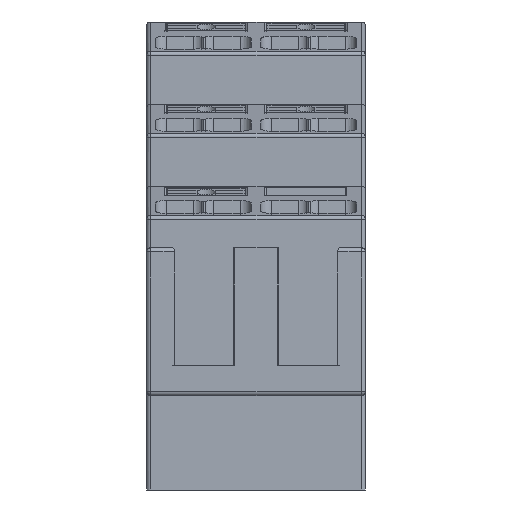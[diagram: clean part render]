
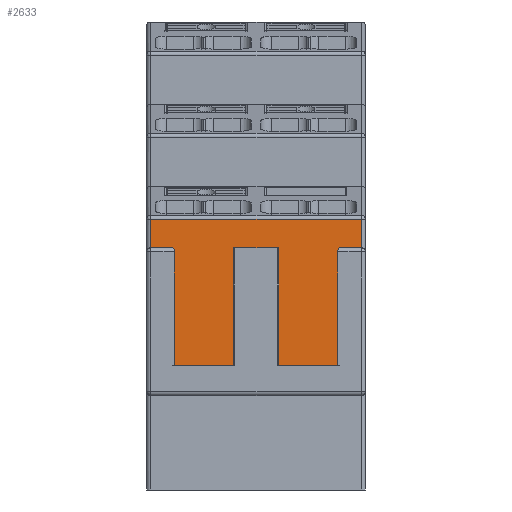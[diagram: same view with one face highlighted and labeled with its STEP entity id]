
A CAD part, left-side view. The second image highlights one B-rep face of the part: STEP entity #2633.
In plain terms, the highlighted planar face has unit normal (-1, 0, 0).
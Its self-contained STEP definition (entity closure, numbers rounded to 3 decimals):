
#2633=ADVANCED_FACE('',(#6224),#4635,.F.);
#4635=PLANE('',#41403);
#6224=FACE_OUTER_BOUND('',#8258,.T.);
#8258=EDGE_LOOP('',(#15008,#15009,#15010,#15011,#15012,#15013,#15014,#15015,
#15016,#15017,#15018,#15019));
#15008=ORIENTED_EDGE('',*,*,#27871,.T.);
#15009=ORIENTED_EDGE('',*,*,#27872,.T.);
#15010=ORIENTED_EDGE('',*,*,#27873,.T.);
#15011=ORIENTED_EDGE('',*,*,#27874,.T.);
#15012=ORIENTED_EDGE('',*,*,#27875,.F.);
#15013=ORIENTED_EDGE('',*,*,#27876,.F.);
#15014=ORIENTED_EDGE('',*,*,#27877,.T.);
#15015=ORIENTED_EDGE('',*,*,#27878,.T.);
#15016=ORIENTED_EDGE('',*,*,#27879,.F.);
#15017=ORIENTED_EDGE('',*,*,#27880,.F.);
#15018=ORIENTED_EDGE('',*,*,#27881,.T.);
#15019=ORIENTED_EDGE('',*,*,#27882,.T.);
#23222=VERTEX_POINT('',#60167);
#23223=VERTEX_POINT('',#60168);
#23224=VERTEX_POINT('',#60170);
#23225=VERTEX_POINT('',#60172);
#23226=VERTEX_POINT('',#60174);
#23227=VERTEX_POINT('',#60176);
#23228=VERTEX_POINT('',#60178);
#23229=VERTEX_POINT('',#60180);
#23230=VERTEX_POINT('',#60182);
#23231=VERTEX_POINT('',#60184);
#23232=VERTEX_POINT('',#60186);
#23233=VERTEX_POINT('',#60188);
#27871=EDGE_CURVE('',#23222,#23223,#33446,.T.);
#27872=EDGE_CURVE('',#23223,#23224,#33447,.T.);
#27873=EDGE_CURVE('',#23224,#23225,#33448,.T.);
#27874=EDGE_CURVE('',#23225,#23226,#33449,.T.);
#27875=EDGE_CURVE('',#23227,#23226,#33450,.T.);
#27876=EDGE_CURVE('',#23228,#23227,#33451,.T.);
#27877=EDGE_CURVE('',#23228,#23229,#33452,.T.);
#27878=EDGE_CURVE('',#23229,#23230,#33453,.T.);
#27879=EDGE_CURVE('',#23231,#23230,#33454,.T.);
#27880=EDGE_CURVE('',#23232,#23231,#33455,.T.);
#27881=EDGE_CURVE('',#23232,#23233,#33456,.T.);
#27882=EDGE_CURVE('',#23233,#23222,#33457,.T.);
#33446=LINE('',#60166,#38315);
#33447=LINE('',#60169,#38316);
#33448=LINE('',#60171,#38317);
#33449=LINE('',#60173,#38318);
#33450=LINE('',#60175,#38319);
#33451=LINE('',#60177,#38320);
#33452=LINE('',#60179,#38321);
#33453=LINE('',#60181,#38322);
#33454=LINE('',#60183,#38323);
#33455=LINE('',#60185,#38324);
#33456=LINE('',#60187,#38325);
#33457=LINE('',#60189,#38326);
#38315=VECTOR('',#48057,1.);
#38316=VECTOR('',#48058,1.);
#38317=VECTOR('',#48059,1.);
#38318=VECTOR('',#48060,1.);
#38319=VECTOR('',#48061,1.);
#38320=VECTOR('',#48062,1.);
#38321=VECTOR('',#48063,1.);
#38322=VECTOR('',#48064,1.);
#38323=VECTOR('',#48065,1.);
#38324=VECTOR('',#48066,1.);
#38325=VECTOR('',#48067,1.);
#38326=VECTOR('',#48068,1.);
#41403=AXIS2_PLACEMENT_3D('',#60190,#48069,#48070);
#48057=DIRECTION('',(0.,1.,0.));
#48058=DIRECTION('',(0.,0.,-1.));
#48059=DIRECTION('',(0.,-1.,0.));
#48060=DIRECTION('',(0.,0.,-1.));
#48061=DIRECTION('',(0.,1.,0.));
#48062=DIRECTION('',(0.,0.,-1.));
#48063=DIRECTION('',(0.,-1.,0.));
#48064=DIRECTION('',(0.,0.,-1.));
#48065=DIRECTION('',(0.,1.,0.));
#48066=DIRECTION('',(0.,0.,-1.));
#48067=DIRECTION('',(0.,-1.,0.));
#48068=DIRECTION('',(0.,0.,1.));
#48069=DIRECTION('',(1.,0.,0.));
#48070=DIRECTION('',(0.,0.,-1.));
#60166=CARTESIAN_POINT('',(-45.7,-205.,20.073));
#60167=CARTESIAN_POINT('',(-45.7,-220.7,20.073));
#60168=CARTESIAN_POINT('',(-45.7,-205.3,20.073));
#60169=CARTESIAN_POINT('',(-45.7,-205.3,20.));
#60170=CARTESIAN_POINT('',(-45.7,-205.3,18.));
#60171=CARTESIAN_POINT('',(-45.7,-235.8,18.));
#60172=CARTESIAN_POINT('',(-45.7,-206.49,18.));
#60173=CARTESIAN_POINT('',(-45.7,-206.49,15.75));
#60174=CARTESIAN_POINT('',(-45.7,-206.49,9.4));
#60175=CARTESIAN_POINT('',(-45.7,-208.,9.4));
#60176=CARTESIAN_POINT('',(-45.7,-211.958,9.4));
#60177=CARTESIAN_POINT('',(-45.7,-211.958,20.));
#60178=CARTESIAN_POINT('',(-45.7,-211.958,18.));
#60179=CARTESIAN_POINT('',(-45.7,-221.,18.));
#60180=CARTESIAN_POINT('',(-45.7,-214.042,18.));
#60181=CARTESIAN_POINT('',(-45.7,-214.042,41.198));
#60182=CARTESIAN_POINT('',(-45.7,-214.042,9.4));
#60183=CARTESIAN_POINT('',(-45.7,-208.,9.4));
#60184=CARTESIAN_POINT('',(-45.7,-219.51,9.4));
#60185=CARTESIAN_POINT('',(-45.7,-219.51,20.));
#60186=CARTESIAN_POINT('',(-45.7,-219.51,18.));
#60187=CARTESIAN_POINT('',(-45.7,-221.,18.));
#60188=CARTESIAN_POINT('',(-45.7,-220.7,18.));
#60189=CARTESIAN_POINT('',(-45.7,-220.7,20.314));
#60190=CARTESIAN_POINT('',(-45.7,-221.,20.));
